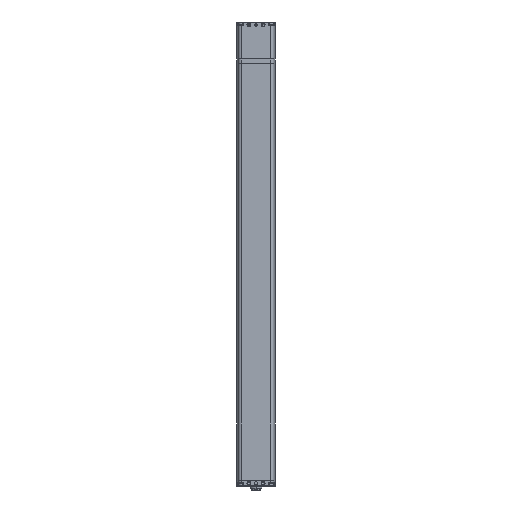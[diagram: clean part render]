
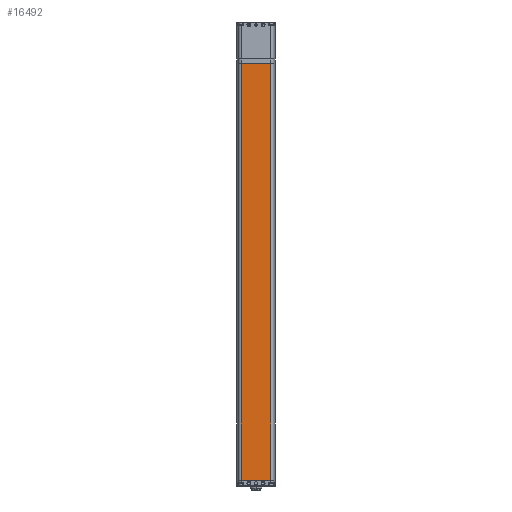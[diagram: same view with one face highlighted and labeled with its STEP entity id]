
A CAD part, front view. The second image highlights one B-rep face of the part: STEP entity #16492.
In plain terms, the highlighted planar face has unit normal (0, -1, 0).
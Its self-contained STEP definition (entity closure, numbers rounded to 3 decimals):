
#13 = CARTESIAN_POINT ( 'NONE',  ( -31.138, -41., -1073. ) ) ;
#381 = VECTOR ( 'NONE', #4328, 1000. ) ;
#557 = CARTESIAN_POINT ( 'NONE',  ( -31.138, -41., -73. ) ) ;
#1656 = VECTOR ( 'NONE', #20531, 1000. ) ;
#3702 = CARTESIAN_POINT ( 'NONE',  ( 31.138, -41., -951. ) ) ;
#3756 = DIRECTION ( 'NONE',  ( 0., 0., -1. ) ) ;
#3868 = ORIENTED_EDGE ( 'NONE', *, *, #8057, .F. ) ;
#4328 = DIRECTION ( 'NONE',  ( 1., 0., 0. ) ) ;
#4600 = EDGE_CURVE ( 'NONE', #6886, #19789, #23357, .T. ) ;
#5187 = VECTOR ( 'NONE', #21165, 1000. ) ;
#5691 = CARTESIAN_POINT ( 'NONE',  ( -31.138, -41., -951. ) ) ;
#6167 = LINE ( 'NONE', #7521, #381 ) ;
#6780 = AXIS2_PLACEMENT_3D ( 'NONE', #18767, #24142, #3756 ) ;
#6886 = VERTEX_POINT ( 'NONE', #5691 ) ;
#7521 = CARTESIAN_POINT ( 'NONE',  ( -41., -41., -73. ) ) ;
#8057 = EDGE_CURVE ( 'NONE', #20428, #9679, #6167, .T. ) ;
#8547 = ORIENTED_EDGE ( 'NONE', *, *, #21246, .T. ) ;
#9370 = FACE_OUTER_BOUND ( 'NONE', #14305, .T. ) ;
#9679 = VERTEX_POINT ( 'NONE', #19185 ) ;
#10992 = LINE ( 'NONE', #13, #1656 ) ;
#11310 = PLANE ( 'NONE',  #6780 ) ;
#14168 = LINE ( 'NONE', #15662, #19274 ) ;
#14305 = EDGE_LOOP ( 'NONE', ( #8547, #21976, #19133, #3868 ) ) ;
#15662 = CARTESIAN_POINT ( 'NONE',  ( 31.138, -41., -1073. ) ) ;
#15783 = CARTESIAN_POINT ( 'NONE',  ( -41., -41., -951. ) ) ;
#16492 = ADVANCED_FACE ( 'NONE', ( #9370 ), #11310, .T. ) ;
#17014 = EDGE_CURVE ( 'NONE', #19789, #9679, #14168, .T. ) ;
#18767 = CARTESIAN_POINT ( 'NONE',  ( -41., -41., -1073. ) ) ;
#19133 = ORIENTED_EDGE ( 'NONE', *, *, #17014, .T. ) ;
#19185 = CARTESIAN_POINT ( 'NONE',  ( 31.138, -41., -73. ) ) ;
#19274 = VECTOR ( 'NONE', #19335, 1000. ) ;
#19335 = DIRECTION ( 'NONE',  ( 0., 0., 1. ) ) ;
#19789 = VERTEX_POINT ( 'NONE', #3702 ) ;
#20428 = VERTEX_POINT ( 'NONE', #557 ) ;
#20531 = DIRECTION ( 'NONE',  ( 0., 0., -1. ) ) ;
#21165 = DIRECTION ( 'NONE',  ( 1., 0., 0. ) ) ;
#21246 = EDGE_CURVE ( 'NONE', #20428, #6886, #10992, .T. ) ;
#21976 = ORIENTED_EDGE ( 'NONE', *, *, #4600, .T. ) ;
#23357 = LINE ( 'NONE', #15783, #5187 ) ;
#24142 = DIRECTION ( 'NONE',  ( 0., -1., 0. ) ) ;
